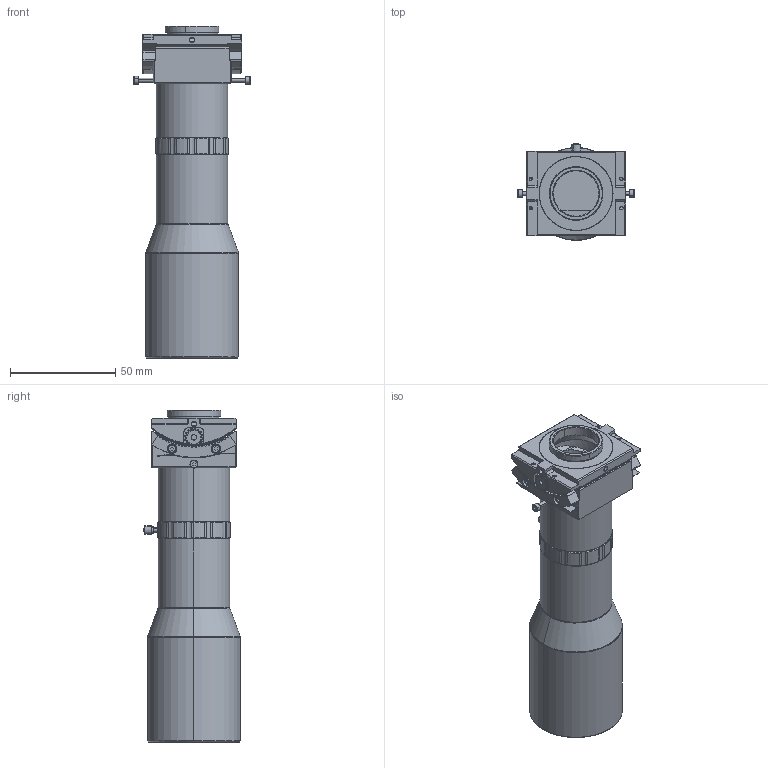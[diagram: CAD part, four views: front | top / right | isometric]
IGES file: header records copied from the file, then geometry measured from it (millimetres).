
Start section: SolidWorks IGES file using analytic representation for surfaces
Global section: file name: C:\Users\gc\Desktop\未完成工作堆放区\WWK075-115-111V3-SM\发客户3D\WWK075-115-111V3-G-SM.IGS; native system: SolidWorks 2017; preprocessor: SolidWorks 2017; author: gc; date: 230705.114755; units: millimetre
Bounding box: 55.11 x 45.79 x 157.38 mm (x, y, z)
Surface area: 37789.3 mm2 (no closed solid volume)
Topology: 0 solids, 0 shells, 851 faces, 9994 edges, 9990 vertices
Faces by surface type: revolution 528, bspline 323
